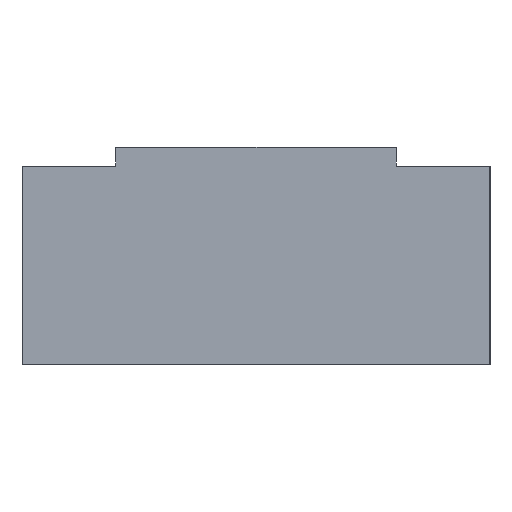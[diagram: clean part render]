
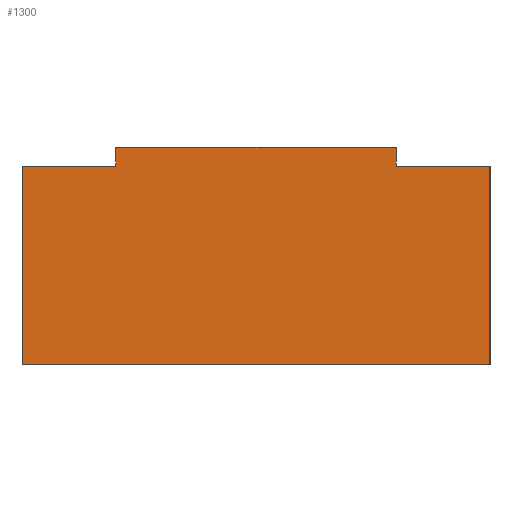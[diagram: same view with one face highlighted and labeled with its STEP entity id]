
A CAD part, left-side view. The second image highlights one B-rep face of the part: STEP entity #1300.
In plain terms, the highlighted planar face has unit normal (-1, 0, 0).
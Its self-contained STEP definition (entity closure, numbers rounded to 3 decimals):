
#32 = ORIENTED_EDGE ( 'NONE', *, *, #2003, .T. ) ;
#98 = ORIENTED_EDGE ( 'NONE', *, *, #1935, .T. ) ;
#105 = VECTOR ( 'NONE', #1653, 1000. ) ;
#128 = DIRECTION ( 'NONE',  ( 1., 0., 0. ) ) ;
#132 = CARTESIAN_POINT ( 'NONE',  ( -48., 25., 21.2 ) ) ;
#133 = EDGE_LOOP ( 'NONE', ( #32, #1830, #1622, #814, #759, #98, #2117, #427 ) ) ;
#134 = EDGE_CURVE ( 'NONE', #754, #1985, #1741, .T. ) ;
#171 = CARTESIAN_POINT ( 'NONE',  ( -48., 15., 23.2 ) ) ;
#172 = VERTEX_POINT ( 'NONE', #1641 ) ;
#179 = EDGE_CURVE ( 'NONE', #241, #1114, #847, .T. ) ;
#207 = CARTESIAN_POINT ( 'NONE',  ( -48., 15., 21.2 ) ) ;
#234 = DIRECTION ( 'NONE',  ( 0., 0., -1. ) ) ;
#241 = VERTEX_POINT ( 'NONE', #985 ) ;
#295 = DIRECTION ( 'NONE',  ( 0., 1., 0. ) ) ;
#366 = VECTOR ( 'NONE', #1495, 1000. ) ;
#426 = CARTESIAN_POINT ( 'NONE',  ( -48., 25., 21.2 ) ) ;
#427 = ORIENTED_EDGE ( 'NONE', *, *, #134, .T. ) ;
#507 = VECTOR ( 'NONE', #1041, 1000. ) ;
#678 = VERTEX_POINT ( 'NONE', #1265 ) ;
#682 = LINE ( 'NONE', #1120, #1531 ) ;
#691 = EDGE_CURVE ( 'NONE', #754, #1324, #1685, .T. ) ;
#715 = CARTESIAN_POINT ( 'NONE',  ( -48., -15., 23.2 ) ) ;
#754 = VERTEX_POINT ( 'NONE', #831 ) ;
#759 = ORIENTED_EDGE ( 'NONE', *, *, #1904, .F. ) ;
#786 = VECTOR ( 'NONE', #1936, 1000. ) ;
#814 = ORIENTED_EDGE ( 'NONE', *, *, #837, .F. ) ;
#831 = CARTESIAN_POINT ( 'NONE',  ( -48., 25., 21.2 ) ) ;
#837 = EDGE_CURVE ( 'NONE', #678, #1754, #869, .T. ) ;
#847 = LINE ( 'NONE', #1831, #366 ) ;
#869 = LINE ( 'NONE', #715, #1025 ) ;
#879 = CARTESIAN_POINT ( 'NONE',  ( -48., 25., 0. ) ) ;
#985 = CARTESIAN_POINT ( 'NONE',  ( -48., -25., 21.2 ) ) ;
#1023 = EDGE_CURVE ( 'NONE', #1754, #241, #682, .T. ) ;
#1025 = VECTOR ( 'NONE', #234, 1000. ) ;
#1041 = DIRECTION ( 'NONE',  ( 0., -1., 0. ) ) ;
#1110 = DIRECTION ( 'NONE',  ( 0., 0., -1. ) ) ;
#1114 = VERTEX_POINT ( 'NONE', #1852 ) ;
#1120 = CARTESIAN_POINT ( 'NONE',  ( -48., 25., 21.2 ) ) ;
#1243 = LINE ( 'NONE', #2010, #105 ) ;
#1265 = CARTESIAN_POINT ( 'NONE',  ( -48., -15., 23.2 ) ) ;
#1288 = VECTOR ( 'NONE', #1110, 1000. ) ;
#1300 = ADVANCED_FACE ( 'NONE', ( #1774 ), #1624, .F. ) ;
#1307 = DIRECTION ( 'NONE',  ( 0., 0., -1. ) ) ;
#1324 = VERTEX_POINT ( 'NONE', #207 ) ;
#1401 = LINE ( 'NONE', #879, #507 ) ;
#1453 = CARTESIAN_POINT ( 'NONE',  ( -48., -15., 21.2 ) ) ;
#1459 = DIRECTION ( 'NONE',  ( 0., -1., 0. ) ) ;
#1492 = AXIS2_PLACEMENT_3D ( 'NONE', #2132, #128, #295 ) ;
#1495 = DIRECTION ( 'NONE',  ( 0., 0., -1. ) ) ;
#1531 = VECTOR ( 'NONE', #1459, 1000. ) ;
#1537 = VECTOR ( 'NONE', #1307, 1000. ) ;
#1622 = ORIENTED_EDGE ( 'NONE', *, *, #1023, .F. ) ;
#1624 = PLANE ( 'NONE',  #1492 ) ;
#1641 = CARTESIAN_POINT ( 'NONE',  ( -48., 15., 23.2 ) ) ;
#1653 = DIRECTION ( 'NONE',  ( 0., -1., 0. ) ) ;
#1685 = LINE ( 'NONE', #426, #786 ) ;
#1713 = CARTESIAN_POINT ( 'NONE',  ( -48., 25., 0. ) ) ;
#1741 = LINE ( 'NONE', #132, #1288 ) ;
#1754 = VERTEX_POINT ( 'NONE', #1453 ) ;
#1774 = FACE_OUTER_BOUND ( 'NONE', #133, .T. ) ;
#1830 = ORIENTED_EDGE ( 'NONE', *, *, #179, .F. ) ;
#1831 = CARTESIAN_POINT ( 'NONE',  ( -48., -25., 21.2 ) ) ;
#1838 = LINE ( 'NONE', #171, #1537 ) ;
#1852 = CARTESIAN_POINT ( 'NONE',  ( -48., -25., 0. ) ) ;
#1904 = EDGE_CURVE ( 'NONE', #172, #678, #1243, .T. ) ;
#1935 = EDGE_CURVE ( 'NONE', #172, #1324, #1838, .T. ) ;
#1936 = DIRECTION ( 'NONE',  ( 0., -1., 0. ) ) ;
#1985 = VERTEX_POINT ( 'NONE', #1713 ) ;
#2003 = EDGE_CURVE ( 'NONE', #1985, #1114, #1401, .T. ) ;
#2010 = CARTESIAN_POINT ( 'NONE',  ( -48., 15., 23.2 ) ) ;
#2117 = ORIENTED_EDGE ( 'NONE', *, *, #691, .F. ) ;
#2132 = CARTESIAN_POINT ( 'NONE',  ( -48., 25., 21.2 ) ) ;
